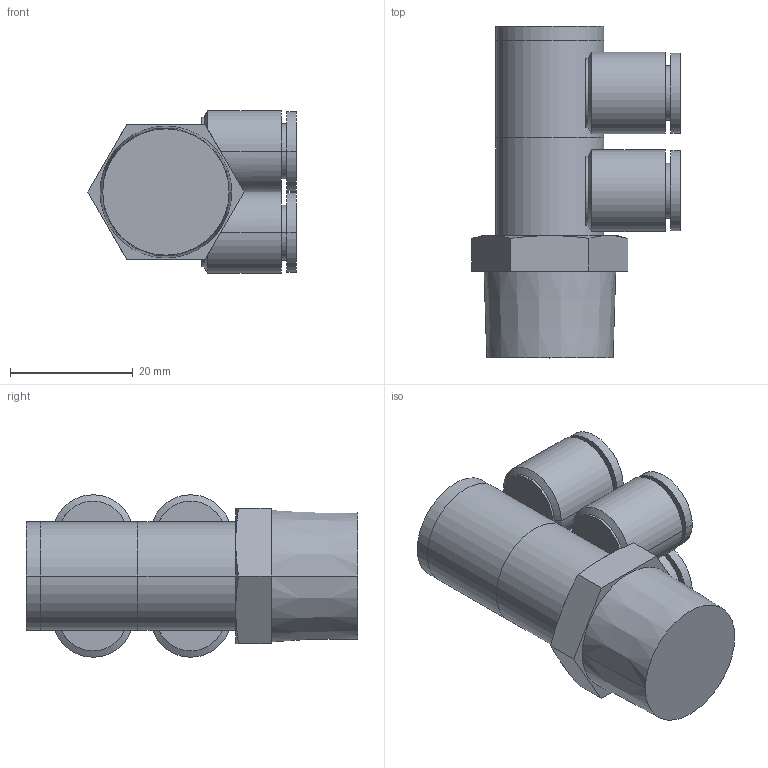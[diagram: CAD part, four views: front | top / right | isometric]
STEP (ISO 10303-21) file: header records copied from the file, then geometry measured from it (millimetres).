
FILE_DESCRIPTION (( 'STEP AP203' ), '1' );
FILE_NAME ('FZD08-04.STEP', '2020-05-11T14:48:43', ( '' ), ( '' ), 'SwSTEP 2.0', 'SolidWorks 2019', '' );
FILE_SCHEMA (( 'CONFIG_CONTROL_DESIGN' ));
Length unit declared in the file: millimetre
Products named in the file (1): FZD08-04
Bounding box: 33.9 x 54 x 26.45 mm (x, y, z)
Volume: 20363 mm3; surface area: 12169.6 mm2
Topology: 3 solids, 3 shells, 114 faces, 252 edges, 159 vertices
Faces by surface type: cylinder 60, plane 33, cone 21
Entity records: 3904 total; most frequent: CARTESIAN_POINT 1274, DIRECTION 561, ORIENTED_EDGE 504, EDGE_CURVE 252, AXIS2_PLACEMENT_3D 238, VERTEX_POINT 159, EDGE_LOOP 133, CIRCLE 123
